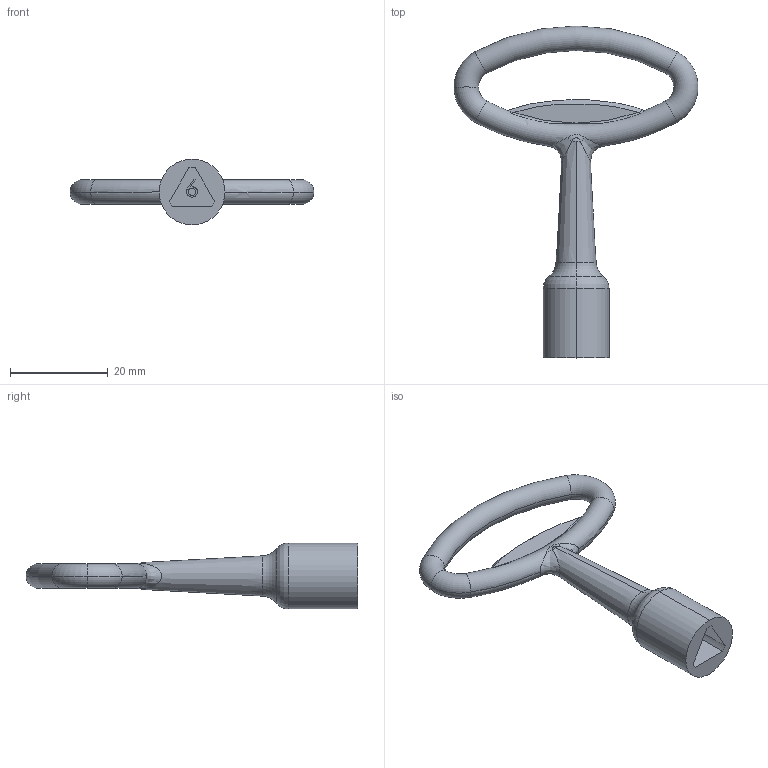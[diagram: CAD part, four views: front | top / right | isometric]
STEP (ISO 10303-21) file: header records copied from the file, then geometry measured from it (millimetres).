
FILE_DESCRIPTION (( 'STEP AP214' ), '1' );
FILE_NAME ('2.KL.B-T9.002.STEP', '2016-09-01T11:25:21', ( '' ), ( '' ), 'SwSTEP 2.0', 'SolidWorks 2015', '' );
FILE_SCHEMA (( 'AUTOMOTIVE_DESIGN' ));
Length unit declared in the file: millimetre
Products named in the file (1): 2.KL.B-T9.002
Bounding box: 49.97 x 68 x 13.5 mm (x, y, z)
Volume: 5119 mm3; surface area: 3671.1 mm2
Topology: 1 solids, 1 shells, 62 faces, 165 edges, 104 vertices
Faces by surface type: bspline 24, torus 16, plane 13, cylinder 5, cone 2, sphere 2
Entity records: 3744 total; most frequent: CARTESIAN_POINT 2347, ORIENTED_EDGE 330, DIRECTION 226, EDGE_CURVE 165, VERTEX_POINT 104, AXIS2_PLACEMENT_3D 96, B_SPLINE_CURVE_WITH_KNOTS 72, EDGE_LOOP 65
